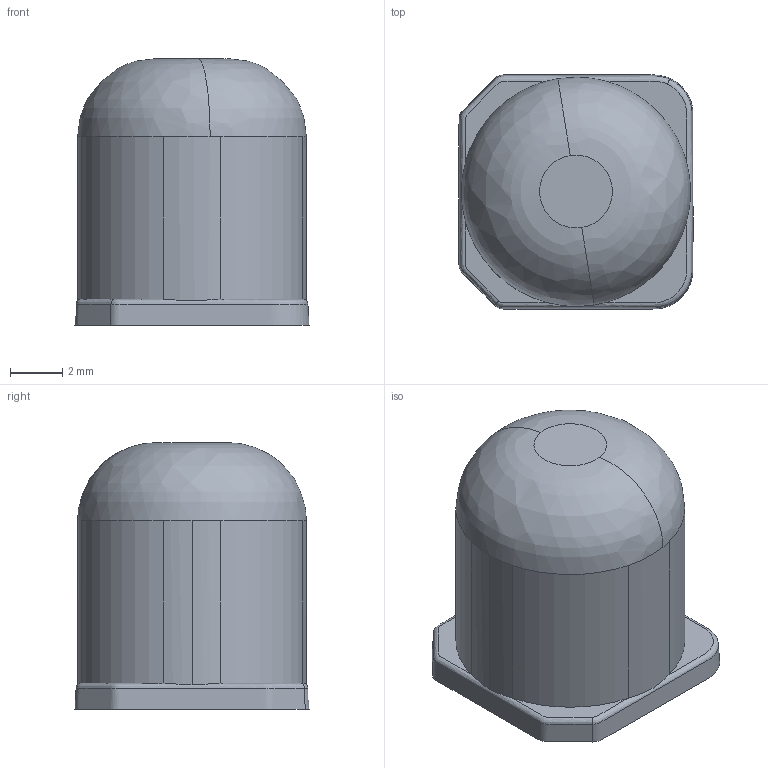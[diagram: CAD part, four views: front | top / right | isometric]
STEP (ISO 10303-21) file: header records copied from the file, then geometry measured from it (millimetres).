
FILE_DESCRIPTION(/* description */ (''),/* implementation_level */ '2;1');
FILE_NAME(/* name */ '230907_AL-8M-276(refarence_model) ',/* time_stamp */ '2023-09-07T11:12:30+09:00',/* author */ (''),/* organization */ (''),/* preprocessor_version */ 'ST-DEVELOPER v16.5',/* originating_system */ 'Rhino 7.26',/* authorisation */ '');
FILE_SCHEMA (('CONFIG_CONTROL_DESIGN'));
Length unit declared in the file: millimetre
Products named in the file (1): Document
Bounding box: 9 x 9 x 10.25 mm (x, y, z)
Volume: 572.1 mm3; surface area: 421.2 mm2
Topology: 1 solids, 1 shells, 68 faces, 174 edges, 108 vertices
Faces by surface type: plane 41, bspline 23, cylinder 4
Entity records: 2951 total; most frequent: CARTESIAN_POINT 1787, ORIENTED_EDGE 344, EDGE_CURVE 172, VERTEX_POINT 108, B_SPLINE_CURVE_WITH_KNOTS 98, EDGE_LOOP 70, ADVANCED_FACE 68, FACE_OUTER_BOUND 68
